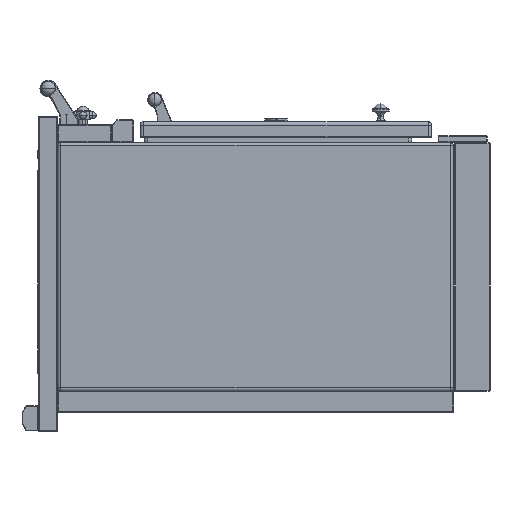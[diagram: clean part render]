
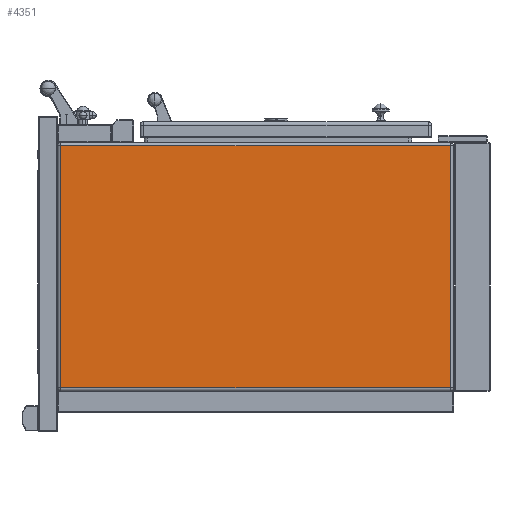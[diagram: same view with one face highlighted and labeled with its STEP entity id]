
A CAD part, left-side view. The second image highlights one B-rep face of the part: STEP entity #4351.
In plain terms, the highlighted planar face has unit normal (-1, 0, 0) as drawn and (1, 0, 0) by its records, which use the part's own axes.
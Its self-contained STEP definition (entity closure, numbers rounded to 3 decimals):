
#774=DIRECTION('',(0.,-1.,0.));
#775=VECTOR('',#774,801.);
#776=CARTESIAN_POINT('',(700.,883.,-249.));
#777=LINE('',#776,#775);
#778=DIRECTION('',(0.,0.,1.));
#779=VECTOR('',#778,498.);
#780=CARTESIAN_POINT('',(700.,82.,-249.));
#781=LINE('',#780,#779);
#782=DIRECTION('',(0.,1.,0.));
#783=VECTOR('',#782,801.);
#784=CARTESIAN_POINT('',(700.,82.,249.));
#785=LINE('',#784,#783);
#786=DIRECTION('',(0.,0.,-1.));
#787=VECTOR('',#786,498.);
#788=CARTESIAN_POINT('',(700.,883.,249.));
#789=LINE('',#788,#787);
#2711=CARTESIAN_POINT('',(700.,883.,-249.));
#2712=CARTESIAN_POINT('',(700.,82.,-249.));
#2713=VERTEX_POINT('',#2711);
#2714=VERTEX_POINT('',#2712);
#2733=CARTESIAN_POINT('',(700.,82.,249.));
#2734=VERTEX_POINT('',#2733);
#2739=CARTESIAN_POINT('',(700.,883.,249.));
#2740=VERTEX_POINT('',#2739);
#4339=CARTESIAN_POINT('',(700.,0.,0.));
#4340=DIRECTION('',(-1.,0.,0.));
#4341=DIRECTION('',(0.,0.,1.));
#4342=AXIS2_PLACEMENT_3D('',#4339,#4340,#4341);
#4343=PLANE('',#4342);
#4344=ORIENTED_EDGE('',*,*,#3800,.T.);
#4345=ORIENTED_EDGE('',*,*,#3843,.T.);
#4347=ORIENTED_EDGE('',*,*,#4346,.T.);
#4348=ORIENTED_EDGE('',*,*,#4307,.T.);
#4349=EDGE_LOOP('',(#4344,#4345,#4347,#4348));
#4350=FACE_OUTER_BOUND('',#4349,.F.);
#3800=EDGE_CURVE('',#2713,#2714,#777,.T.);
#3843=EDGE_CURVE('',#2714,#2734,#781,.T.);
#4307=EDGE_CURVE('',#2740,#2713,#789,.T.);
#4346=EDGE_CURVE('',#2734,#2740,#785,.T.);
#4351=ADVANCED_FACE('',(#4350),#4343,.F.);
